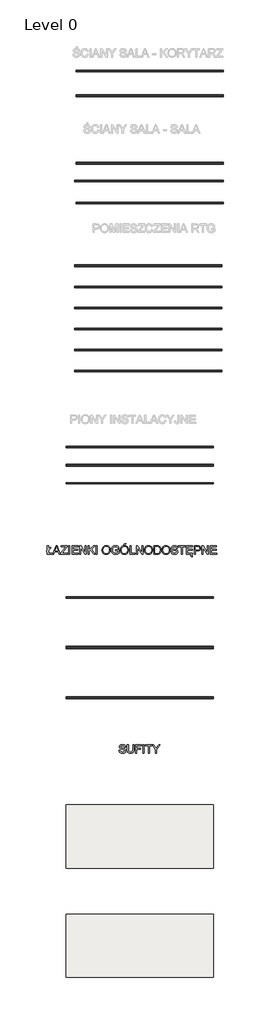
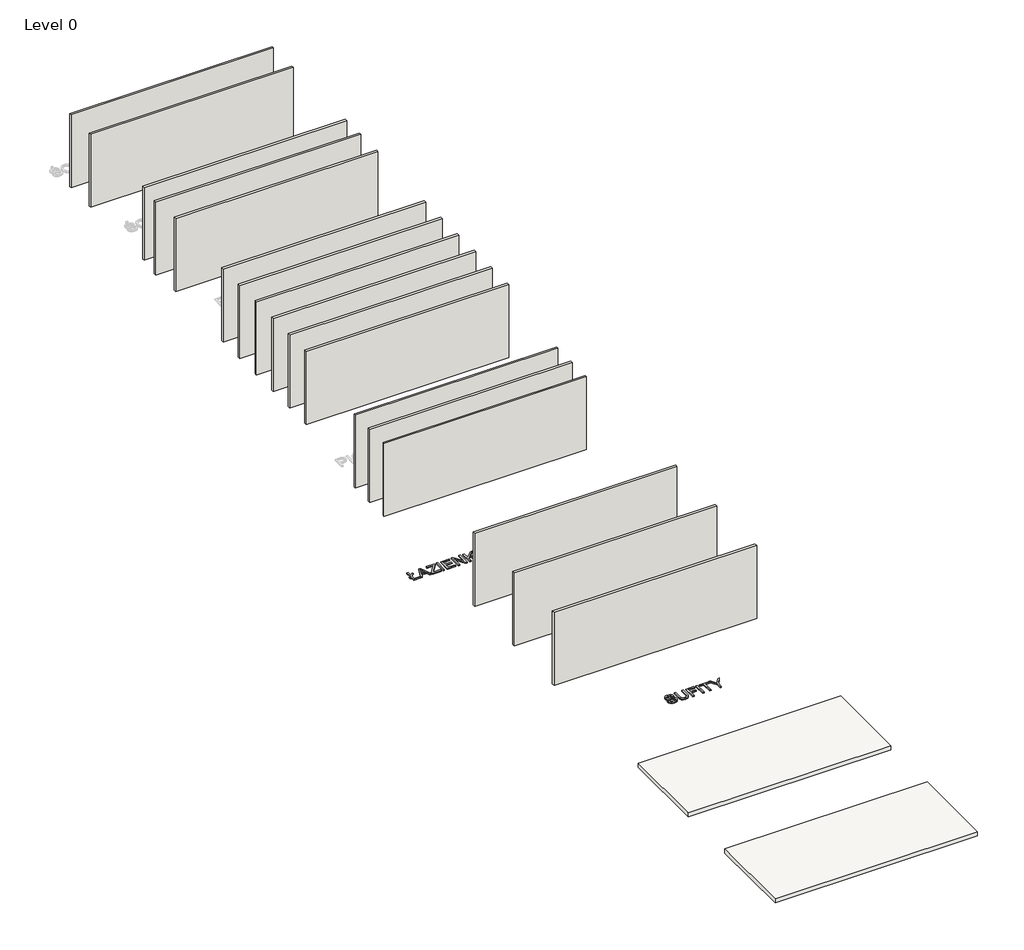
# One storey, part 1 of 3: 17 walls, 2 coverings, 2 proxies.
"""IFC4 building model written with IfcOpenShell, lengths in millimetres."""

from ifc_helpers import new_model, si_unit, frame, origin, origin_with_axes, place, context, project, spatial, polyline, outline, extrude, element, save

model = new_model("IFC4")

# Units and contexts
model_context = context("Model", 3, world=origin())
ifc_project = project(units=[si_unit("LENGTHUNIT", "METRE", prefix="MILLI")], contexts=[model_context])

# Site, building, storey
site = spatial("IfcSite", under=ifc_project)
building = spatial("IfcBuilding", under=site)
storey = spatial("IfcBuildingStorey", under=building, Name="Level 0", Elevation=0.0)

# Proxies
placement = place(None, origin())
element("IfcBuildingElementProxy", 1, Name="600mm Arial", ObjectType="600mm Arial", at=placement, inside=storey, context=model_context, shape_type="SweptSolid", body=[
    extrude(outline(polyline([(-5070.5158862, -9119.3275481), (-5136.4403397, -9174.2155418), (-5136.4403397, -9098.8733092), (-5070.5158862, -9043.9853155), (-5070.5158862, -8755.1243729), (-4995.1736536, -8755.1243729), (-4995.1736536, -8981.1510708), (-4853.9069674, -8863.4288323), (-4853.9069674, -8938.7710649), (-4995.1736536, -9056.4933034), (-4995.1736536, -9282.5200012), (-4693.8047231, -9282.5200012), (-4693.8047231, -9357.8622338), (-5070.5158862, -9357.8622338), (-5070.5158862, -9119.3275481)])), origin_with_axes(), (0.0, 0.0, 1.0), 50.0),
    extrude(outline(polyline([(-4688.6543752, -9357.8622338), (-4448.0595504, -8755.1243729), (-4383.9009304, -8755.1243729), (-4143.3061056, -9357.8622338), (-4222.9157693, -9357.8622338), (-4291.9304316, -9169.5066523), (-4540.177202, -9169.5066523), (-4609.0447115, -9357.8622338), (-4688.6543752, -9357.8622338)]), holes=[polyline([(-4512.5124759, -9094.1644197), (-4319.4480049, -9094.1644197), (-4373.7473873, -8945.981552), (-4415.9802404, -8830.4666055), (-4453.5042039, -8933.0321058), (-4512.5124759, -9094.1644197)])]), origin_with_axes(), (0.0, 0.0, 1.0), 50.0),
    extrude(outline(polyline([(-4109.9024204, -9357.8622338), (-4109.9024204, -9279.724098), (-3801.6173084, -8902.277171), (-3743.0504948, -8830.4666055), (-4072.2313041, -8830.4666055), (-4072.2313041, -8755.1243729), (-3648.4312457, -8755.1243729), (-3648.4312457, -8830.4666055), (-3985.8526116, -9243.5245097), (-4017.637616, -9282.5200012), (-3639.0134666, -9282.5200012), (-3639.0134666, -9357.8622338), (-4109.9024204, -9357.8622338)])), origin_with_axes(), (0.0, 0.0, 1.0), 50.0),
    extrude(outline(polyline([(-3544.8356758, -9357.8622338), (-3544.8356758, -8755.1243729), (-3469.4934432, -8755.1243729), (-3469.4934432, -9357.8622338), (-3544.8356758, -9357.8622338)])), origin_with_axes(), (0.0, 0.0, 1.0), 50.0),
    extrude(outline(polyline([(-3318.808978, -9357.8622338), (-3318.808978, -8755.1243729), (-2885.5911405, -8755.1243729), (-2885.5911405, -8830.4666055), (-3243.4667454, -8830.4666055), (-3243.4667454, -9009.404408), (-2904.4266986, -9009.404408), (-2904.4266986, -9084.7466406), (-3243.4667454, -9084.7466406), (-3243.4667454, -9282.5200012), (-2876.1733614, -9282.5200012), (-2876.1733614, -9357.8622338), (-3318.808978, -9357.8622338)])), origin_with_axes(), (0.0, 0.0, 1.0), 50.0),
    extrude(outline(polyline([(-2763.1600125, -9357.8622338), (-2763.1600125, -8755.1243729), (-2682.5202791, -8755.1243729), (-2367.6132912, -9232.6352027), (-2367.6132912, -8755.1243729), (-2292.2710586, -8755.1243729), (-2292.2710586, -9357.8622338), (-2372.910792, -9357.8622338), (-2687.8177798, -8880.2042513), (-2687.8177798, -9357.8622338), (-2763.1600125, -9357.8622338)])), origin_with_axes(), (0.0, 0.0, 1.0), 50.0),
    extrude(outline(polyline([(-2160.4221516, -9357.8622338), (-2160.4221516, -8755.1243729), (-2085.0799189, -8755.1243729), (-2085.0799189, -9050.1657331), (-1776.059043, -8755.1243729), (-1670.6976396, -8755.1243729), (-1930.1280226, -9002.9296849), (-1661.2798605, -9357.8622338), (-1753.3975121, -9357.8622338), (-1983.5444883, -9053.844553), (-2085.0799189, -9150.6710941), (-2085.0799189, -9357.8622338), (-2160.4221516, -9357.8622338)])), origin_with_axes(), (0.0, 0.0, 1.0), 50.0),
    extrude(outline(polyline([(-1595.355407, -9357.8622338), (-1595.355407, -8755.1243729), (-1520.0131744, -8755.1243729), (-1520.0131744, -9357.8622338), (-1595.355407, -9357.8622338)])), origin_with_axes(), (0.0, 0.0, 1.0), 50.0),
    extrude(outline(polyline([(-1162.1375694, -9064.4395545), (-1157.1159802, -8993.741832), (-1142.0512125, -8931.1559076), (-1116.9432663, -8876.6817812), (-1100.6231013, -8852.4866422), (-1081.7921417, -8830.3194527), (-1038.703963, -8793.301327), (-989.7848547, -8766.8598086), (-935.0348168, -8750.9948975), (-874.4538492, -8745.7065938), (-833.9040563, -8748.1897973), (-795.3960085, -8755.6394077), (-758.9297057, -8768.0554251), (-724.505148, -8785.4378493), (-693.0880256, -8807.2624487), (-665.6440288, -8833.0049913), (-642.1731575, -8862.6654772), (-622.6754117, -8896.2439063), (-607.3531266, -8932.9769235), (-596.4086373, -8972.1011737), (-589.8419437, -9013.6166568), (-587.6530458, -9057.523373), (-589.9569068, -9102.0095032), (-596.8684898, -9144.0860064), (-608.3877947, -9183.7528826), (-624.5148217, -9221.0101316), (-644.8678931, -9254.8736693), (-669.0653313, -9284.3594112), (-697.1071364, -9309.4673574), (-728.9933083, -9330.1975078), (-763.4684498, -9346.4211038), (-799.2771635, -9358.0093866), (-836.4194494, -9364.9623563), (-874.8953076, -9367.2800129), (-916.1532734, -9364.7186345), (-955.167159, -9357.0344993), (-991.9369644, -9344.2276074), (-1026.4626896, -9326.2979586), (-1057.8430238, -9303.9399304), (-1085.1766561, -9277.8478999), (-1108.4635864, -9248.0218671), (-1127.7038147, -9214.4618321), (-1142.7685824, -9178.5151626), (-1153.5291308, -9141.5292266), (-1159.9854598, -9103.5040238), (-1162.1375694, -9064.4395545)]), holes=[polyline([(-1086.7953368, -9065.1753185), (-1083.0291449, -9115.1244964), (-1071.7305691, -9159.4634738), (-1052.8996095, -9198.1922509), (-1026.536266, -9231.3108275), (-994.4891457, -9257.8351193), (-958.6068556, -9276.7810421), (-918.8893957, -9288.1485957), (-875.336766, -9291.9377803), (-831.0391753, -9288.1118075), (-790.8526658, -9276.6338893), (-754.7772377, -9257.5040255), (-722.8128908, -9230.7222163), (-696.6426854, -9196.9046639), (-677.9496815, -9156.6675707), (-666.7338792, -9110.0109366), (-662.9952784, -9056.9347618), (-664.5955651, -9022.4550218), (-669.3964251, -8990.237756), (-677.3978585, -8960.2829646), (-688.5998653, -8932.5906474), (-702.8782852, -8907.5240879), (-720.1089581, -8885.4465697), (-740.2918841, -8866.3580927), (-763.4270631, -8850.2586569), (-788.7971252, -8837.4793561), (-815.6847005, -8828.3512841), (-844.089789, -8822.8744409), (-874.0123908, -8821.0488265), (-916.0521058, -8824.566698), (-955.0567944, -8835.1203128), (-991.0264564, -8852.7096707), (-1023.9610921, -8877.3347717), (-1051.4510741, -8910.1820354), (-1071.0867756, -8952.437881), (-1082.8681965, -9004.1023087), (-1086.7953368, -9065.1753185)])]), origin_with_axes(), (0.0, 0.0, 1.0), 50.0),
    extrude(outline(polyline([(-201.5241036, -9122.4177569), (-201.5241036, -9047.0755243), (43.3381523, -9047.0755243), (43.3381523, -9272.3664581), (-16.1667604, -9313.7531826), (-77.5478713, -9343.4412596), (-140.6580275, -9361.3203246), (-205.3500764, -9367.2800129), (-248.6267946, -9364.9117726), (-289.8709648, -9357.8070515), (-329.0825869, -9345.9658498), (-366.2616611, -9329.3881674), (-400.2079722, -9308.3223246), (-429.7213053, -9283.0166419), (-454.8016603, -9253.4711192), (-475.4490373, -9219.6857564), (-491.5760642, -9182.7412071), (-503.0953692, -9143.7181244), (-510.0069522, -9102.6165085), (-512.3108132, -9059.4363593), (-510.0161492, -9016.2516116), (-503.1321574, -8974.5475889), (-491.6588377, -8934.3242913), (-475.59619, -8895.5817187), (-455.2293231, -8860.0213253), (-430.8433453, -8829.3445654), (-402.4382568, -8803.5514391), (-370.0140574, -8782.6419462), (-334.2743216, -8766.4827295), (-295.9226236, -8754.9404319), (-254.9589634, -8748.0150534), (-211.3833411, -8745.7065938), (-149.3216485, -8751.0592769), (-93.5139499, -8767.117326), (-68.5945432, -8778.8711557), (-46.517025, -8792.7219128), (-27.2813952, -8808.6695973), (-10.8876537, -8826.7142092), (15.4710912, -8870.7312899), (34.6561373, -8926.4102299), (-34.7999834, -8945.981552), (-50.3062095, -8906.2686906), (-69.1601618, -8876.3047021), (-94.1025611, -8853.7167476), (-127.8741282, -8836.1319883), (-168.1388126, -8824.8196169), (-212.5605635, -8821.0488265), (-264.5606835, -8825.1139225), (-309.0192226, -8837.3092106), (-345.770634, -8856.1079806), (-374.6493706, -8879.9835221), (-396.8142608, -8907.7034304), (-413.4241329, -8938.0353009), (-431.0824686, -8994.9098574), (-436.9685806, -9056.3461506), (-435.1981485, -9093.9666831), (-429.8868521, -9128.3958393), (-421.0346916, -9159.6336192), (-408.6416669, -9187.6800228), (-392.8687264, -9212.4292841), (-373.8768184, -9233.7756368), (-351.6659429, -9251.7190812), (-326.2361, -9266.259617), (-298.7783076, -9277.4938134), (-270.4835836, -9285.5182395), (-241.3519281, -9290.3328951), (-211.3833411, -9291.9377803), (-159.1992801, -9287.100132), (-108.3028061, -9272.5871873), (-64.1017843, -9252.5928009), (-32.0040803, -9231.3108275), (-32.0040803, -9122.4177569), (-201.5241036, -9122.4177569)])), origin_with_axes(), (0.0, 0.0, 1.0), 50.0),
    extrude(outline(polyline([(137.5159431, -9064.4395545), (142.5375323, -8993.741832), (157.6023, -8931.1559076), (182.7102462, -8876.6817812), (199.0304112, -8852.4866422), (217.8613709, -8830.3194527), (260.9495495, -8793.301327), (309.8686579, -8766.8598086), (364.6186958, -8750.9948975), (425.1996633, -8745.7065938), (465.7494563, -8748.1897973), (504.2575041, -8755.6394077), (540.7238069, -8768.0554251), (575.1483646, -8785.4378493), (606.565487, -8807.2624487), (634.0094838, -8833.0049913), (657.4803551, -8862.6654772), (676.9781008, -8896.2439063), (692.3003859, -8932.9769235), (703.2448753, -8972.1011737), (709.8115689, -9013.6166568), (712.0004668, -9057.523373), (709.6966058, -9102.0095032), (702.7850228, -9144.0860064), (691.2657178, -9183.7528826), (675.1386909, -9221.0101316), (654.7856195, -9254.8736693), (630.5881812, -9284.3594112), (602.5463762, -9309.4673574), (570.6602042, -9330.1975078), (536.1850628, -9346.4211038), (500.3763491, -9358.0093866), (463.2340631, -9364.9623563), (424.7582049, -9367.2800129), (383.5002392, -9364.7186345), (344.4863536, -9357.0344993), (307.7165482, -9344.2276074), (273.1908229, -9326.2979586), (241.8104887, -9303.9399304), (214.4768565, -9277.8478999), (191.1899262, -9248.0218671), (171.9496979, -9214.4618321), (156.8849302, -9178.5151626), (146.1243818, -9141.5292266), (139.6680528, -9103.5040238), (137.5159431, -9064.4395545)]), holes=[polyline([(212.8581757, -9065.1753185), (216.6243676, -9115.1244964), (227.9229434, -9159.4634738), (246.7539031, -9198.1922509), (273.1172465, -9231.3108275), (305.1643668, -9257.8351193), (341.0466569, -9276.7810421), (380.7641168, -9288.1485957), (424.3167466, -9291.9377803), (468.6143373, -9288.1118075), (508.8008467, -9276.6338893), (544.8762749, -9257.5040255), (576.8406218, -9230.7222163), (603.0108272, -9196.9046639), (621.7038311, -9156.6675707), (632.9196334, -9110.0109366), (636.6582342, -9056.9347618), (635.0579475, -9022.4550218), (630.2570875, -8990.237756), (622.2556541, -8960.2829646), (611.0536473, -8932.5906474), (596.7752274, -8907.5240879), (579.5445544, -8885.4465697), (559.3616285, -8866.3580927), (536.2264495, -8850.2586569), (510.8563874, -8837.4793561), (483.9688121, -8828.3512841), (455.5637235, -8822.8744409), (425.6411217, -8821.0488265), (383.6014067, -8824.566698), (344.5967182, -8835.1203128), (308.6270561, -8852.7096707), (275.6924205, -8877.3347717), (248.2024384, -8910.1820354), (228.5667369, -8952.437881), (216.785316, -9004.1023087), (212.8581757, -9065.1753185)])]), origin_with_axes(), (0.0, 0.0, 1.0), 50.0),
    extrude(outline(polyline([(372.96042, -8717.4532566), (429.4670945, -8604.4399077), (523.6448852, -8604.4399077), (429.4670945, -8717.4532566), (372.96042, -8717.4532566)])), origin_with_axes(), (0.0, 0.0, 1.0), 50.0),
    extrude(outline(polyline([(815.5960366, -9357.8622338), (815.5960366, -8755.1243729), (890.9382692, -8755.1243729), (890.9382692, -9282.5200012), (1192.3071997, -9282.5200012), (1192.3071997, -9357.8622338), (815.5960366, -9357.8622338)])), origin_with_axes(), (0.0, 0.0, 1.0), 50.0),
    extrude(outline(polyline([(1277.0672114, -9357.8622338), (1277.0672114, -8755.1243729), (1357.7069447, -8755.1243729), (1672.6139326, -9232.6352027), (1672.6139326, -8755.1243729), (1747.9561652, -8755.1243729), (1747.9561652, -9357.8622338), (1667.3164319, -9357.8622338), (1352.409444, -8880.2042513), (1352.409444, -9357.8622338), (1277.0672114, -9357.8622338)])), origin_with_axes(), (0.0, 0.0, 1.0), 50.0),
    extrude(outline(polyline([(1851.551735, -9064.4395545), (1856.5733243, -8993.741832), (1871.638092, -8931.1559076), (1896.7460381, -8876.6817812), (1913.0662032, -8852.4866422), (1931.8971628, -8830.3194527), (1974.9853415, -8793.301327), (2023.9044498, -8766.8598086), (2078.6544877, -8750.9948975), (2139.2354553, -8745.7065938), (2179.7852482, -8748.1897973), (2218.293296, -8755.6394077), (2254.7595988, -8768.0554251), (2289.1841565, -8785.4378493), (2320.6012789, -8807.2624487), (2348.0452757, -8833.0049913), (2371.516147, -8862.6654772), (2391.0138928, -8896.2439063), (2406.3361779, -8932.9769235), (2417.2806672, -8972.1011737), (2423.8473608, -9013.6166568), (2426.0362587, -9057.523373), (2423.7323977, -9102.0095032), (2416.8208147, -9144.0860064), (2405.3015098, -9183.7528826), (2389.1744828, -9221.0101316), (2368.8214114, -9254.8736693), (2344.6239732, -9284.3594112), (2316.5821681, -9309.4673574), (2284.6959962, -9330.1975078), (2250.2208547, -9346.4211038), (2214.412141, -9358.0093866), (2177.269855, -9364.9623563), (2138.7939969, -9367.2800129), (2097.5360311, -9364.7186345), (2058.5221455, -9357.0344993), (2021.7523401, -9344.2276074), (1987.2266149, -9326.2979586), (1955.8462807, -9303.9399304), (1928.5126484, -9277.8478999), (1905.2257181, -9248.0218671), (1885.9854898, -9214.4618321), (1870.9207221, -9178.5151626), (1860.1601737, -9141.5292266), (1853.7038447, -9103.5040238), (1851.551735, -9064.4395545)]), holes=[polyline([(1926.8939677, -9065.1753185), (1930.6601596, -9115.1244964), (1941.9587354, -9159.4634738), (1960.789695, -9198.1922509), (1987.1530385, -9231.3108275), (2019.2001588, -9257.8351193), (2055.0824489, -9276.7810421), (2094.7999088, -9288.1485957), (2138.3525385, -9291.9377803), (2182.6501292, -9288.1118075), (2222.8366387, -9276.6338893), (2258.9120668, -9257.5040255), (2290.8764137, -9230.7222163), (2317.0466191, -9196.9046639), (2335.739623, -9156.6675707), (2346.9554253, -9110.0109366), (2350.6940261, -9056.9347618), (2349.0937394, -9022.4550218), (2344.2928794, -8990.237756), (2336.291446, -8960.2829646), (2325.0894392, -8932.5906474), (2310.8110193, -8907.5240879), (2293.5803463, -8885.4465697), (2273.3974204, -8866.3580927), (2250.2622414, -8850.2586569), (2224.8921793, -8837.4793561), (2198.004604, -8828.3512841), (2169.5995154, -8822.8744409), (2139.6769137, -8821.0488265), (2097.6371987, -8824.566698), (2058.6325101, -8835.1203128), (2022.662848, -8852.7096707), (1989.7282124, -8877.3347717), (1962.2382303, -8910.1820354), (1942.6025288, -8952.437881), (1930.821108, -9004.1023087), (1926.8939677, -9065.1753185)])]), origin_with_axes(), (0.0, 0.0, 1.0), 50.0),
    extrude(outline(polyline([(2529.6318285, -9357.8622338), (2529.6318285, -8755.1243729), (2737.5587322, -8755.1243729), (2799.6940012, -8757.2948767), (2845.1274276, -8763.806388), (2893.1728162, -8780.5450188), (2933.7134121, -8806.9221578), (2956.0530462, -8828.4800428), (2975.3944421, -8852.8338308), (2991.7375997, -8879.9835221), (3005.0825191, -8909.9291165), (3015.4475943, -8942.3947026), (3022.8512195, -8977.1043688), (3028.7741196, -9053.2559418), (3024.7642059, -9117.9479907), (3012.7344646, -9174.8777294), (2994.4139413, -9223.3461823), (2971.5316812, -9262.6543735), (2945.1913303, -9293.6852198), (2916.4965347, -9317.321638), (2883.552702, -9334.851215), (2844.46524, -9347.561538), (2799.1605723, -9355.2870599), (2747.5651225, -9357.8622338), (2529.6318285, -9357.8622338)]), holes=[polyline([(2604.9740612, -9282.5200012), (2738.2944962, -9282.5200012), (2793.4400073, -9279.7976744), (2835.2681901, -9271.6306941), (2866.8324653, -9258.4973069), (2891.1862534, -9240.8757594), (2917.3610574, -9208.2630205), (2937.02435, -9166.0485615), (2949.3300027, -9114.0484415), (2953.431887, -9052.0787194), (2951.4223316, -9008.3375502), (2945.3936654, -8969.9674581), (2935.3458884, -8936.9684431), (2921.2790006, -8909.3405053), (2904.3334362, -8886.4582452), (2885.6496294, -8867.6962634), (2865.2275801, -8853.05456), (2843.0672884, -8842.533135), (2799.7307894, -8833.4832379), (2736.234357, -8830.4666055), (2604.9740612, -8830.4666055), (2604.9740612, -9282.5200012)])]), origin_with_axes(), (0.0, 0.0, 1.0), 50.0),
    extrude(outline(polyline([(3104.1163522, -9064.4395545), (3109.1379415, -8993.741832), (3124.2027092, -8931.1559076), (3149.3106553, -8876.6817812), (3165.6308203, -8852.4866422), (3184.46178, -8830.3194527), (3227.5499586, -8793.301327), (3276.469067, -8766.8598086), (3331.2191049, -8750.9948975), (3391.8000724, -8745.7065938), (3432.3498654, -8748.1897973), (3470.8579132, -8755.6394077), (3507.324216, -8768.0554251), (3541.7487737, -8785.4378493), (3573.1658961, -8807.2624487), (3600.6098929, -8833.0049913), (3624.0807642, -8862.6654772), (3643.5785099, -8896.2439063), (3658.900795, -8932.9769235), (3669.8452844, -8972.1011737), (3676.411978, -9013.6166568), (3678.6008759, -9057.523373), (3676.2970149, -9102.0095032), (3669.3854319, -9144.0860064), (3657.8661269, -9183.7528826), (3641.7391, -9221.0101316), (3621.3860286, -9254.8736693), (3597.1885904, -9284.3594112), (3569.1467853, -9309.4673574), (3537.2606133, -9330.1975078), (3502.7854719, -9346.4211038), (3466.9767582, -9358.0093866), (3429.8344722, -9364.9623563), (3391.3586141, -9367.2800129), (3350.1006483, -9364.7186345), (3311.0867627, -9357.0344993), (3274.3169573, -9344.2276074), (3239.791232, -9326.2979586), (3208.4108979, -9303.9399304), (3181.0772656, -9277.8478999), (3157.7903353, -9248.0218671), (3138.550107, -9214.4618321), (3123.4853393, -9178.5151626), (3112.7247909, -9141.5292266), (3106.2684619, -9103.5040238), (3104.1163522, -9064.4395545)]), holes=[polyline([(3179.4585848, -9065.1753185), (3183.2247768, -9115.1244964), (3194.5233525, -9159.4634738), (3213.3543122, -9198.1922509), (3239.7176556, -9231.3108275), (3271.7647759, -9257.8351193), (3307.647066, -9276.7810421), (3347.364526, -9288.1485957), (3390.9171557, -9291.9377803), (3435.2147464, -9288.1118075), (3475.4012558, -9276.6338893), (3511.476684, -9257.5040255), (3543.4410309, -9230.7222163), (3569.6112363, -9196.9046639), (3588.3042402, -9156.6675707), (3599.5200425, -9110.0109366), (3603.2586433, -9056.9347618), (3601.6583566, -9022.4550218), (3596.8574966, -8990.237756), (3588.8560632, -8960.2829646), (3577.6540564, -8932.5906474), (3563.3756365, -8907.5240879), (3546.1449635, -8885.4465697), (3525.9620376, -8866.3580927), (3502.8268586, -8850.2586569), (3477.4567965, -8837.4793561), (3450.5692212, -8828.3512841), (3422.1641326, -8822.8744409), (3392.2415308, -8821.0488265), (3350.2018158, -8824.566698), (3311.1971273, -8835.1203128), (3275.2274652, -8852.7096707), (3242.2928296, -8877.3347717), (3214.8028475, -8910.1820354), (3195.167146, -8952.437881), (3183.3857251, -9004.1023087), (3179.4585848, -9065.1753185)])]), origin_with_axes(), (0.0, 0.0, 1.0), 50.0),
    extrude(outline(polyline([(3753.9431085, -9150.6710941), (3829.2853411, -9150.6710941), (3837.930568, -9192.4808829), (3853.5655528, -9226.0869031), (3877.9561291, -9252.7583478), (3912.8681304, -9273.7644097), (3955.5424419, -9287.3944376), (4003.2199484, -9291.9377803), (4045.1952841, -9288.4980836), (4081.9466954, -9278.1789937), (4111.7267429, -9261.8450331), (4132.7879871, -9240.3607246), (4145.3143691, -9215.6942368), (4149.4898297, -9189.8137384), (4146.3628328, -9164.5954277), (4136.9818419, -9142.7984194), (4117.9255545, -9124.2019846), (4085.7726681, -9108.5853939), (3976.0702572, -9079.8170219), (3904.0573566, -9060.7791286), (3857.9801367, -9042.6609404), (3820.4745673, -9017.3138709), (3793.8950932, -8986.5957243), (3778.0577733, -8951.1686882), (3772.7786667, -8911.6949501), (3774.411143, -8889.2587469), (3779.3085721, -8867.5675047), (3787.4709538, -8846.6212236), (3798.8982883, -8826.4199036), (3813.4618168, -8807.7866805), (3831.0327806, -8791.5446904), (3851.6111797, -8777.6939333), (3875.1970141, -8766.2344092), (3928.2088096, -8750.8385477), (3986.8859878, -8745.7065938), (4050.4559966, -8751.077671), (4106.0797543, -8767.1909024), (4130.4151483, -8779.1930525), (4151.7706981, -8793.7151942), (4170.1464037, -8810.7573276), (4185.5422652, -8830.3194527), (4197.8387209, -8851.8313524), (4206.9162092, -8874.7228096), (4212.7747299, -8898.9938242), (4215.4142832, -8924.6443963), (4140.0720506, -8924.6443963), (4135.0320673, -8900.6033079), (4126.2396876, -8879.6892165), (4113.6949116, -8861.902122), (4097.3977392, -8847.2420245), (4077.0446678, -8835.7825004), (4052.3321948, -8827.597126), (4023.2603201, -8822.6859013), (3989.8290438, -8821.0488265), (3955.3309097, -8822.6675072), (3925.8543648, -8827.5235496), (3901.3994092, -8835.6169535), (3881.9660428, -8846.9477189), (3867.1587925, -8860.5685498), (3856.5821852, -8875.5321499), (3850.2362207, -8891.8385194), (3848.1208993, -8909.4876581), (3849.6200184, -8924.6719874), (3854.1173758, -8938.4399711), (3861.6129714, -8950.7916091), (3872.1068053, -8961.7269014), (3888.6247069, -8972.0827796), (3914.633964, -8982.5490223), (3995.1265445, -9003.8126017), (4078.194299, -9024.0093232), (4128.4469796, -9041.6308708), (4171.3972025, -9068.964503), (4188.0024761, -9085.0317491), (4201.361191, -9102.699282), (4211.6296972, -9121.875131), (4218.9643445, -9142.4673256), (4224.8320623, -9187.900752), (4223.1444037, -9211.4681924), (4218.0814277, -9234.3458539), (4209.6431344, -9256.5337368), (4197.8295239, -9278.0318409), (4182.8475296, -9298.0078332), (4164.9040853, -9315.6293808), (4143.9991909, -9330.8964836), (4120.1328465, -9343.8091416), (4093.9994293, -9354.0776478), (4066.2933165, -9361.4122951), (4006.1630044, -9367.2800129), (3967.6227669, -9365.6981203), (3932.3474821, -9360.9524426), (3900.33715, -9353.0429797), (3871.5917706, -9341.9697316), (3845.9365999, -9327.7143043), (3823.1968941, -9310.2583036), (3803.3726531, -9289.6017296), (3786.4638769, -9265.7445822), (3772.843046, -9239.4594137), (3762.882641, -9211.5187761), (3756.5826618, -9181.9226696), (3753.9431085, -9150.6710941)])), origin_with_axes(), (0.0, 0.0, 1.0), 50.0),
    extrude(outline(polyline([(4488.5298765, -9357.8622338), (4488.5298765, -8830.4666055), (4290.7565159, -8830.4666055), (4290.7565159, -8755.1243729), (4761.6454697, -8755.1243729), (4761.6454697, -8830.4666055), (4563.8721091, -8830.4666055), (4563.8721091, -9357.8622338), (4488.5298765, -9357.8622338)])), origin_with_axes(), (0.0, 0.0, 1.0), 50.0),
    extrude(outline(polyline([(4846.4054814, -8755.1243729), (5279.6233189, -8755.1243729), (5279.6233189, -8830.4666055), (4921.747714, -8830.4666055), (4921.747714, -9009.404408), (5260.7877607, -9009.404408), (5260.7877607, -9084.7466406), (4921.747714, -9084.7466406), (4921.747714, -9282.5200012), (5289.041098, -9282.5200012), (5289.041098, -9357.8622338), (5262.8478999, -9357.8622338), (5242.0809613, -9374.3249531), (5226.5747352, -9394.2825513), (5216.9178328, -9416.1163478), (5213.6988654, -9438.2076616), (5215.9981278, -9454.504834), (5222.8959152, -9468.0796796), (5234.9440506, -9477.2399413), (5252.6943568, -9480.2933618), (5271.529915, -9477.6446114), (5289.041098, -9470.5812771), (5289.041098, -9522.5262149), (5261.6338893, -9533.2315809), (5236.2132435, -9536.8000363), (5217.6168086, -9535.2917201), (5201.5587595, -9530.7667716), (5187.9839139, -9523.5930726), (5176.8370894, -9514.1385054), (5162.0482332, -9489.7847173), (5157.1921909, -9460.2805813), (5160.8710109, -9433.5907425), (5171.9074707, -9406.7905392), (5189.6761711, -9381.13077), (5213.5517126, -9357.8622338), (4846.4054814, -9357.8622338), (4846.4054814, -8755.1243729)])), origin_with_axes(), (0.0, 0.0, 1.0), 50.0),
    extrude(outline(polyline([(5402.0544469, -9357.8622338), (5402.0544469, -8755.1243729), (5625.4323944, -8755.1243729), (5677.4509085, -8756.5591127), (5715.4899068, -8760.863332), (5755.6442266, -8771.5870922), (5788.6984238, -8789.0430929), (5815.3146862, -8814.0222803), (5836.1552012, -8847.3156009), (5849.6196822, -8886.5870039), (5854.1078426, -8929.5004386), (5851.0774146, -8966.5001703), (5841.9861308, -9000.5384519), (5826.8339911, -9031.6152834), (5805.6209956, -9059.7306649), (5776.4985372, -9083.0359893), (5737.6180088, -9099.6826496), (5688.9794105, -9109.6706458), (5630.5827423, -9112.9999778), (5477.3966795, -9112.9999778), (5477.3966795, -9357.8622338), (5402.0544469, -9357.8622338)]), holes=[polyline([(5477.3966795, -9037.6577452), (5634.9973262, -9037.6577452), (5671.2337028, -9035.9286998), (5701.8046966, -9030.7415637), (5726.7103076, -9022.0963368), (5745.950536, -9009.9930192), (5760.3071308, -8994.7535075), (5770.5618415, -8976.6996986), (5776.7146678, -8955.8315924), (5778.76561, -8932.149189), (5773.9279617, -8898.3040454), (5759.415017, -8869.7564026), (5737.0293976, -8848.2720941), (5708.5737253, -8835.6169535), (5679.5110477, -8831.7541925), (5633.2314927, -8830.4666055), (5477.3966795, -8830.4666055), (5477.3966795, -9037.6577452)])]), origin_with_axes(), (0.0, 0.0, 1.0), 50.0),
    extrude(outline(polyline([(5957.7034124, -9357.8622338), (5957.7034124, -8755.1243729), (6038.3431457, -8755.1243729), (6353.2501336, -9232.6352027), (6353.2501336, -8755.1243729), (6428.5923662, -8755.1243729), (6428.5923662, -9357.8622338), (6347.9526329, -9357.8622338), (6033.045645, -8880.2042513), (6033.045645, -9357.8622338), (5957.7034124, -9357.8622338)])), origin_with_axes(), (0.0, 0.0, 1.0), 50.0),
    extrude(outline(polyline([(6560.4412733, -9357.8622338), (6560.4412733, -8755.1243729), (6993.6591108, -8755.1243729), (6993.6591108, -8830.4666055), (6635.7835059, -8830.4666055), (6635.7835059, -9009.404408), (6974.8235527, -9009.404408), (6974.8235527, -9084.7466406), (6635.7835059, -9084.7466406), (6635.7835059, -9282.5200012), (7003.0768899, -9282.5200012), (7003.0768899, -9357.8622338), (6560.4412733, -9357.8622338)])), origin_with_axes(), (0.0, 0.0, 1.0), 50.0),
])
element("IfcBuildingElementProxy", 2, Name="600mm Arial", ObjectType="600mm Arial", at=placement, inside=storey, context=model_context, shape_type="SweptSolid", body=[
    extrude(outline(polyline([(40.978414, -23306.7064098), (116.3206466, -23306.7064098), (124.9658735, -23348.5161985), (140.6008583, -23382.1222188), (164.9914345, -23408.7936634), (199.9034359, -23429.7997254), (242.5777473, -23443.4297533), (290.2552539, -23447.9730959), (332.2305896, -23444.5333993), (368.9820009, -23434.2143093), (398.7620484, -23417.8803487), (419.8232926, -23396.3960402), (432.3496745, -23371.7295524), (436.5251352, -23345.8490541), (433.3981382, -23320.6307433), (424.0171473, -23298.8337351), (404.96086, -23280.2373002), (372.8079736, -23264.6207095), (263.1055627, -23235.8523375), (191.0926621, -23216.8144443), (145.0154422, -23198.696256), (107.5098728, -23173.3491865), (80.9303986, -23142.6310399), (65.0930788, -23107.2040038), (59.8139721, -23067.7302657), (61.4464485, -23045.2940625), (66.3438775, -23023.6028204), (74.5062593, -23002.6565393), (85.9335938, -22982.4552192), (100.4971223, -22963.8219962), (118.0680861, -22947.5800061), (138.6464852, -22933.729249), (162.2323196, -22922.2697248), (215.2441151, -22906.8738633), (273.9212933, -22901.7419095), (337.4913021, -22907.1129866), (393.1150598, -22923.226218), (417.4504537, -22935.2283681), (438.8060036, -22949.7505099), (457.1817092, -22966.7926433), (472.5775707, -22986.3547684), (484.8740264, -23007.8666681), (493.9515146, -23030.7581252), (499.8100354, -23055.0291398), (502.4495887, -23080.6797119), (427.1073561, -23080.6797119), (422.0673728, -23056.6386236), (413.2749931, -23035.7245321), (400.7302171, -23017.9374377), (384.4330447, -23003.2773402), (364.0799733, -22991.817816), (339.3675003, -22983.6324416), (310.2956256, -22978.721217), (276.8643493, -22977.0841421), (242.3662152, -22978.7028229), (212.8896703, -22983.5588652), (188.4347147, -22991.6522691), (169.0013483, -23002.9830346), (154.194098, -23016.6038654), (143.6174906, -23031.5674656), (137.2715262, -23047.873835), (135.1562047, -23065.5229737), (136.6553239, -23080.7073031), (141.1526813, -23094.4752868), (148.6482769, -23106.8269248), (159.1421108, -23117.7622171), (175.6600124, -23128.1180952), (201.6692695, -23138.584338), (282.16185, -23159.8479173), (365.2296045, -23180.0446388), (415.4822851, -23197.6661864), (458.432508, -23224.9998187), (475.0377816, -23241.0670648), (488.3964965, -23258.7345976), (498.6650027, -23277.9104466), (505.99965, -23298.5026413), (511.8673678, -23343.9360677), (510.1797091, -23367.503508), (505.1167332, -23390.3811696), (496.6784399, -23412.5690524), (484.8648294, -23434.0671565), (469.8828351, -23454.0431489), (451.9393908, -23471.6646964), (431.0344964, -23486.9317992), (407.168152, -23499.8444573), (381.0347347, -23510.1129634), (353.328622, -23517.4476107), (293.1983099, -23523.3153285), (254.6580723, -23521.733436), (219.3827875, -23516.9877582), (187.3724554, -23509.0782953), (158.627076, -23498.0050473), (132.9719054, -23483.74962), (110.2321996, -23466.2936193), (90.4079585, -23445.6370453), (73.4991823, -23421.7798979), (59.8783515, -23395.4947293), (49.9179465, -23367.5540918), (43.6179673, -23337.9579853), (40.978414, -23306.7064098)])), origin_with_axes(), (0.0, 0.0, 1.0), 50.0),
    extrude(outline(polyline([(1020.4274379, -22911.1596886), (1095.7696705, -22911.1596886), (1095.7696705, -23258.8817504), (1090.6561108, -23340.31243), (1084.2641611, -23374.0058223), (1075.3154316, -23403.0179161), (1063.03737, -23428.447759), (1046.6574242, -23451.3943985), (1026.1755941, -23471.8578345), (1001.5918798, -23489.838067), (972.8786901, -23504.4843689), (940.0084338, -23514.9460132), (902.981111, -23521.2229997), (861.7967216, -23523.3153285), (821.6286063, -23521.4943127), (785.2956607, -23516.031265), (752.797885, -23506.9261857), (724.135279, -23494.1790745), (699.3032443, -23477.9784712), (678.2971824, -23458.5129151), (661.1170932, -23435.7824063), (647.7629768, -23409.7869448), (637.751988, -23379.6344168), (630.6012817, -23344.4327084), (626.310858, -23304.1818196), (624.8807167, -23258.8817504), (624.8807167, -22911.1596886), (700.2229493, -22911.1596886), (700.2229493, -23256.233), (703.9385575, -23323.9416813), (715.0853819, -23371.0857589), (723.8501705, -23388.4635847), (735.2821035, -23403.735286), (749.3811809, -23416.9008629), (766.1474029, -23427.9603154), (806.3936931, -23442.9699008), (854.7333873, -23447.9730959), (896.2580675, -23445.4990895), (931.3632069, -23438.0770703), (960.0488055, -23425.7070382), (982.3148632, -23408.3889933), (998.9891147, -23384.0352052), (1010.8992943, -23350.5579436), (1018.045402, -23307.9572086), (1020.4274379, -23256.233), (1020.4274379, -22911.1596886)])), origin_with_axes(), (0.0, 0.0, 1.0), 50.0),
    extrude(outline(polyline([(1227.6185776, -23513.8975495), (1227.6185776, -22911.1596886), (1632.5830779, -22911.1596886), (1632.5830779, -22986.5019212), (1302.9608102, -22986.5019212), (1302.9608102, -23165.4397236), (1585.4941825, -23165.4397236), (1585.4941825, -23240.7819563), (1302.9608102, -23240.7819563), (1302.9608102, -23513.8975495), (1227.6185776, -23513.8975495)])), origin_with_axes(), (0.0, 0.0, 1.0), 50.0),
    extrude(outline(polyline([(1745.5964268, -23513.8975495), (1745.5964268, -22911.1596886), (1820.9386594, -22911.1596886), (1820.9386594, -23513.8975495), (1745.5964268, -23513.8975495)])), origin_with_axes(), (0.0, 0.0, 1.0), 50.0),
    extrude(outline(polyline([(2122.3075899, -23513.8975495), (2122.3075899, -22986.5019212), (1924.5342293, -22986.5019212), (1924.5342293, -22911.1596886), (2395.4231831, -22911.1596886), (2395.4231831, -22986.5019212), (2197.6498225, -22986.5019212), (2197.6498225, -23513.8975495), (2122.3075899, -23513.8975495)])), origin_with_axes(), (0.0, 0.0, 1.0), 50.0),
    extrude(outline(polyline([(2649.7032182, -23513.8975495), (2649.7032182, -23258.5874448), (2414.2587413, -22911.1596886), (2503.1390313, -22911.1596886), (2628.8075208, -23096.7193669), (2693.1132936, -23191.3386161), (2757.5662192, -23089.9503382), (2871.6096377, -22911.1596886), (2960.4899277, -22911.1596886), (2725.0454508, -23258.5874448), (2725.0454508, -23513.8975495), (2649.7032182, -23513.8975495)])), origin_with_axes(), (0.0, 0.0, 1.0), 50.0),
])

# Coverings
element("IfcCovering", 3, ObjectType="Nida Sufit DK/WO/CD60-12,5/Expert", at=placement, inside=storey, context=model_context, shape_type="SweptSolid", body=[
    extrude(outline(polyline([(6780.7888079, -27195.6177582), (6780.7888079, -31695.6177582), (-3719.2111921, -31695.6177582), (-3719.2111921, -27195.6177582), (6780.7888079, -27195.6177582)])), frame((0.0, 0.0, 100.0), z_axis=(0.0, 0.0, 1.0), x_axis=(1.0, 0.0, 0.0)), (0.0, 0.0, 1.0), 222.5),
])
element("IfcCovering", 4, ObjectType="Nida Sufit DK/WO/CD60-25/Expert", at=placement, inside=storey, context=model_context, shape_type="SweptSolid", body=[
    extrude(outline(polyline([(6780.7888079, -34983.6205762), (6780.7888079, -39483.6205762), (-3719.2111921, -39483.6205762), (-3719.2111921, -34983.6205762), (6780.7888079, -34983.6205762)])), frame((0.0, 0.0, 100.0), z_axis=(0.0, 0.0, 1.0), x_axis=(1.0, 0.0, 0.0)), (0.0, 0.0, 1.0), 235.0),
])

# Walls
element("IfcWall", 5, ObjectType="Nida Szacht 95A50/Ogień+", at=placement, inside=storey, context=model_context, shape_type="SweptSolid", body=[
    extrude(outline(polyline([(6780.7888079, -1773.7021176), (-3719.2111921, -1773.7021176), (-3719.2111921, -1678.7021176), (6780.7888079, -1678.7021176), (6780.7888079, -1773.7021176)])), origin_with_axes(), (0.0, 0.0, 1.0), 4000.0),
])
element("IfcWall", 6, ObjectType="Nida Szacht 130UU100/Hydro", at=placement, inside=storey, context=model_context, shape_type="SweptSolid", body=[
    extrude(outline(polyline([(6780.7888079, -3084.3271176), (-3719.2111921, -3084.3271176), (-3719.2111921, -2954.3271176), (6780.7888079, -2954.3271176), (6780.7888079, -3084.3271176)])), origin_with_axes(), (0.0, 0.0, 1.0), 4000.0),
])
element("IfcWall", 7, ObjectType="Nida Szacht 77,5A75/Ogień+", at=placement, inside=storey, context=model_context, shape_type="SweptSolid", body=[
    extrude(outline(polyline([(6780.7888079, -4351.2021176), (-3719.2111921, -4351.2021176), (-3719.2111921, -4273.7021176), (6780.7888079, -4273.7021176), (6780.7888079, -4351.2021176)])), origin_with_axes(), (0.0, 0.0, 1.0), 4000.0),
])
element("IfcWall", 8, ObjectType="Nida Ściana 125A75/Woda+Cicha", at=placement, inside=storey, context=model_context, shape_type="SweptSolid", body=[
    extrude(outline(polyline([(6780.7888079, -12491.0481169), (-3719.2111921, -12491.0481169), (-3719.2111921, -12366.0481169), (6780.7888079, -12366.0481169), (6780.7888079, -12491.0481169)])), origin_with_axes(), (0.0, 0.0, 1.0), 4000.0),
])
element("IfcWall", 9, ObjectType="Nida Ściana 150A100/Woda+Cicha", at=placement, inside=storey, context=model_context, shape_type="SweptSolid", body=[
    extrude(outline(polyline([(6780.7888079, -16072.2981169), (-3719.2111921, -16072.2981169), (-3719.2111921, -15922.2981169), (6780.7888079, -15922.2981169), (6780.7888079, -16072.2981169)])), origin_with_axes(), (0.0, 0.0, 1.0), 4000.0),
])
element("IfcWall", 10, ObjectType="Nida Ściana 150C50/Cicha", at=placement, inside=storey, context=model_context, shape_type="SweptSolid", body=[
    extrude(outline(polyline([(6780.7888079, -19643.5481169), (-3719.2111921, -19643.5481169), (-3719.2111921, -19488.5481169), (6780.7888079, -19488.5481169), (6780.7888079, -19643.5481169)])), origin_with_axes(), (0.0, 0.0, 1.0), 4000.0),
])
element("IfcWall", 11, ObjectType="Nida Ściana 125A75/Cicha", at=placement, inside=storey, context=model_context, shape_type="SweptSolid", body=[
    extrude(outline(polyline([(7485.898561, 15590.8207176), (-3014.101439, 15590.8207176), (-3014.101439, 15715.8207176), (7485.898561, 15715.8207176), (7485.898561, 15590.8207176)])), origin_with_axes(), (0.0, 0.0, 1.0), 4000.0),
])
element("IfcWall", 12, ObjectType="Nida Ściana 125A100/RTG-1,0", at=placement, inside=storey, context=model_context, shape_type="SweptSolid", body=[
    extrude(outline(polyline([(7367.9551925, 9613.9207176), (-3132.0448075, 9613.9207176), (-3132.0448075, 9739.9207176), (7367.9551925, 9739.9207176), (7367.9551925, 9613.9207176)])), origin_with_axes(), (0.0, 0.0, 1.0), 4000.0),
])
element("IfcWall", 13, ObjectType="Nida Ściana 125A100/RTG-0,5", at=placement, inside=storey, context=model_context, shape_type="SweptSolid", body=[
    extrude(outline(polyline([(7367.9551925, 8117.9707176), (-3132.0448075, 8117.9707176), (-3132.0448075, 8243.4707176), (7367.9551925, 8243.4707176), (7367.9551925, 8117.9707176)])), origin_with_axes(), (0.0, 0.0, 1.0), 4000.0),
])
element("IfcWall", 14, ObjectType="Nida Ściana 125A100/RTG-1,5", at=placement, inside=storey, context=model_context, shape_type="SweptSolid", body=[
    extrude(outline(polyline([(7367.9551925, 6621.2707176), (-3132.0448075, 6621.2707176), (-3132.0448075, 6747.7707176), (7367.9551925, 6747.7707176), (7367.9551925, 6621.2707176)])), origin_with_axes(), (0.0, 0.0, 1.0), 4000.0),
])
element("IfcWall", 15, ObjectType="Nida Ściana 125A75/RTG-3,0", at=placement, inside=storey, context=model_context, shape_type="SweptSolid", body=[
    extrude(outline(polyline([(7367.9551925, 3626.6207176), (-3132.0448075, 3626.6207176), (-3132.0448075, 3757.6207176), (7367.9551925, 3757.6207176), (7367.9551925, 3626.6207176)])), origin_with_axes(), (0.0, 0.0, 1.0), 4000.0),
])
element("IfcWall", 16, ObjectType="Nida Ściana 125A100/RTG-2,0", at=placement, inside=storey, context=model_context, shape_type="SweptSolid", body=[
    extrude(outline(polyline([(7367.9551925, 5124.8207176), (-3132.0448075, 5124.8207176), (-3132.0448075, 5251.8207176), (7367.9551925, 5251.8207176), (7367.9551925, 5124.8207176)])), origin_with_axes(), (0.0, 0.0, 1.0), 4000.0),
])
element("IfcWall", 17, ObjectType="Nida Ściana 125A75/RTG-2,5", at=placement, inside=storey, context=model_context, shape_type="SweptSolid", body=[
    extrude(outline(polyline([(7367.9551925, 11108.1207176), (-3132.0448075, 11108.1207176), (-3132.0448075, 11238.1207176), (7367.9551925, 11238.1207176), (7367.9551925, 11108.1207176)])), origin_with_axes(), (0.0, 0.0, 1.0), 4000.0),
])
element("IfcWall", 18, ObjectType="Nida Ściana 125A75/Expert+Cicha", at=placement, inside=storey, context=model_context, shape_type="SweptSolid", body=[
    extrude(outline(polyline([(7485.898561, 17153.3207176), (-3132.0448075, 17153.3207176), (-3132.0448075, 17278.3207176), (7485.898561, 17278.3207176), (7485.898561, 17153.3207176)])), origin_with_axes(), (0.0, 0.0, 1.0), 4000.0),
])
element("IfcWall", 19, ObjectType="Nida Ściana 125A75/Expert+Twarda", at=placement, inside=storey, context=model_context, shape_type="SweptSolid", body=[
    extrude(outline(polyline([(7485.898561, 18415.8207176), (-3014.101439, 18415.8207176), (-3014.101439, 18540.8207176), (7485.898561, 18540.8207176), (7485.898561, 18415.8207176)])), origin_with_axes(), (0.0, 0.0, 1.0), 4000.0),
])
element("IfcWall", 20, ObjectType="Nida Ściana 125A75/Expert+Twarda", at=placement, inside=storey, context=model_context, shape_type="SweptSolid", body=[
    extrude(outline(polyline([(7485.898561, 24978.3207176), (-3014.101439, 24978.3207176), (-3014.101439, 25103.3207176), (7485.898561, 25103.3207176), (7485.898561, 24978.3207176)])), origin_with_axes(), (0.0, 0.0, 1.0), 4000.0),
])
element("IfcWall", 21, ObjectType="Nida Ściana 125A75/Resistex", at=placement, inside=storey, context=model_context, shape_type="SweptSolid", body=[
    extrude(outline(polyline([(7485.898561, 23215.8207176), (-3014.101439, 23215.8207176), (-3014.101439, 23340.8207176), (7485.898561, 23340.8207176), (7485.898561, 23215.8207176)])), origin_with_axes(), (0.0, 0.0, 1.0), 4000.0),
])

save(model, "model.ifc")
